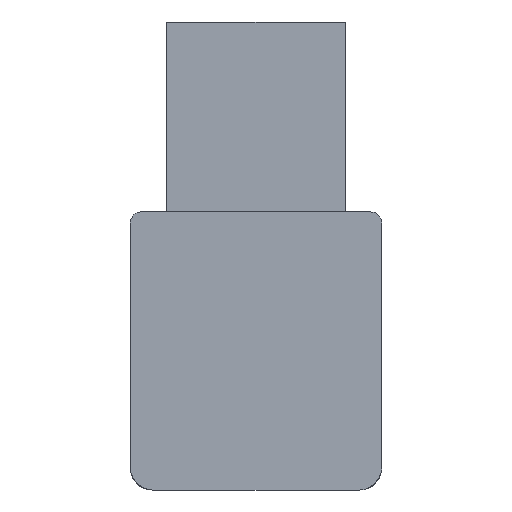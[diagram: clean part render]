
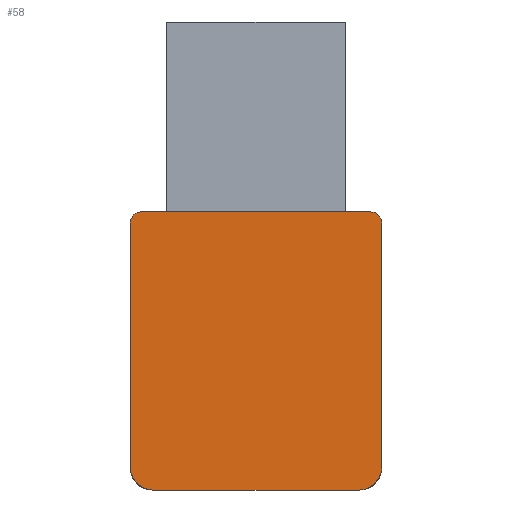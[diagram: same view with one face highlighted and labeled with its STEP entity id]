
A CAD part, front view. The second image highlights one B-rep face of the part: STEP entity #58.
In plain terms, the highlighted planar face has unit normal (0, -1, 0) as drawn and (0, 0, 1) by its records, which use the part's own axes.
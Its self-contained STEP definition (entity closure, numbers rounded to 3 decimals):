
#58=ADVANCED_FACE('',(#133),#1260,.T.);
#133=FACE_OUTER_BOUND('',#209,.T.);
#209=EDGE_LOOP('',(#450,#451,#452,#453,#454,#455,#456,#457));
#450=ORIENTED_EDGE('',*,*,#807,.T.);
#451=ORIENTED_EDGE('',*,*,#838,.T.);
#452=ORIENTED_EDGE('',*,*,#809,.T.);
#453=ORIENTED_EDGE('',*,*,#836,.T.);
#454=ORIENTED_EDGE('',*,*,#814,.T.);
#455=ORIENTED_EDGE('',*,*,#835,.T.);
#456=ORIENTED_EDGE('',*,*,#797,.T.);
#457=ORIENTED_EDGE('',*,*,#840,.T.);
#797=EDGE_CURVE('',#1218,#1217,#973,.T.);
#807=EDGE_CURVE('',#1222,#1221,#983,.T.);
#809=EDGE_CURVE('',#1223,#1224,#985,.T.);
#814=EDGE_CURVE('',#1229,#1228,#990,.T.);
#835=EDGE_CURVE('',#1228,#1218,#1058,.T.);
#836=EDGE_CURVE('',#1224,#1229,#1059,.T.);
#838=EDGE_CURVE('',#1221,#1223,#1061,.T.);
#840=EDGE_CURVE('',#1217,#1222,#1063,.T.);
#973=B_SPLINE_CURVE_WITH_KNOTS('',1,(#2724,#2725),.UNSPECIFIED.,.F.,.F.,
(2,2),(-21.9,0.),.UNSPECIFIED.);
#983=B_SPLINE_CURVE_WITH_KNOTS('',1,(#2744,#2745),.UNSPECIFIED.,.F.,.F.,
(2,2),(-20.5,0.),.UNSPECIFIED.);
#985=B_SPLINE_CURVE_WITH_KNOTS('',1,(#2748,#2749),.UNSPECIFIED.,.F.,.F.,
(2,2),(-21.9,0.),.UNSPECIFIED.);
#990=B_SPLINE_CURVE_WITH_KNOTS('',1,(#2758,#2759),.UNSPECIFIED.,.F.,.F.,
(2,2),(-18.5,0.),.UNSPECIFIED.);
#1058=(
BOUNDED_CURVE()
B_SPLINE_CURVE(2,(#2826,#2827,#2828),.UNSPECIFIED.,.F.,.F.)
B_SPLINE_CURVE_WITH_KNOTS((3,3),(-3.142,0.),.UNSPECIFIED.)
CURVE()
GEOMETRIC_REPRESENTATION_ITEM()
RATIONAL_B_SPLINE_CURVE((1.,0.707,1.))
REPRESENTATION_ITEM('')
);
#1059=(
BOUNDED_CURVE()
B_SPLINE_CURVE(2,(#2829,#2830,#2831),.UNSPECIFIED.,.F.,.F.)
B_SPLINE_CURVE_WITH_KNOTS((3,3),(-3.142,0.),.UNSPECIFIED.)
CURVE()
GEOMETRIC_REPRESENTATION_ITEM()
RATIONAL_B_SPLINE_CURVE((1.,0.707,1.))
REPRESENTATION_ITEM('')
);
#1061=(
BOUNDED_CURVE()
B_SPLINE_CURVE(2,(#2835,#2836,#2837),.UNSPECIFIED.,.F.,.F.)
B_SPLINE_CURVE_WITH_KNOTS((3,3),(-1.571,0.),.UNSPECIFIED.)
CURVE()
GEOMETRIC_REPRESENTATION_ITEM()
RATIONAL_B_SPLINE_CURVE((1.,0.707,1.))
REPRESENTATION_ITEM('')
);
#1063=(
BOUNDED_CURVE()
B_SPLINE_CURVE(2,(#2841,#2842,#2843),.UNSPECIFIED.,.F.,.F.)
B_SPLINE_CURVE_WITH_KNOTS((3,3),(-1.571,0.),.UNSPECIFIED.)
CURVE()
GEOMETRIC_REPRESENTATION_ITEM()
RATIONAL_B_SPLINE_CURVE((1.,0.707,1.))
REPRESENTATION_ITEM('')
);
#1217=VERTEX_POINT('',#2157);
#1218=VERTEX_POINT('',#2158);
#1221=VERTEX_POINT('',#2161);
#1222=VERTEX_POINT('',#2162);
#1223=VERTEX_POINT('',#2163);
#1224=VERTEX_POINT('',#2164);
#1228=VERTEX_POINT('',#2168);
#1229=VERTEX_POINT('',#2169);
#1260=PLANE('',#1397);
#1397=AXIS2_PLACEMENT_3D('',#1725,#1453,$);
#1453=DIRECTION('',(0.,0.,1.));
#1725=CARTESIAN_POINT('',(-13.5,-14.94,142.25));
#2157=CARTESIAN_POINT('',(11.25,11.45,142.25));
#2158=CARTESIAN_POINT('',(11.25,-10.45,142.25));
#2161=CARTESIAN_POINT('',(-10.25,12.45,142.25));
#2162=CARTESIAN_POINT('',(10.25,12.45,142.25));
#2163=CARTESIAN_POINT('',(-11.25,11.45,142.25));
#2164=CARTESIAN_POINT('',(-11.25,-10.45,142.25));
#2168=CARTESIAN_POINT('',(9.25,-12.45,142.25));
#2169=CARTESIAN_POINT('',(-9.25,-12.45,142.25));
#2724=CARTESIAN_POINT('',(11.25,-10.45,142.25));
#2725=CARTESIAN_POINT('',(11.25,11.45,142.25));
#2744=CARTESIAN_POINT('',(10.25,12.45,142.25));
#2745=CARTESIAN_POINT('',(-10.25,12.45,142.25));
#2748=CARTESIAN_POINT('',(-11.25,11.45,142.25));
#2749=CARTESIAN_POINT('',(-11.25,-10.45,142.25));
#2758=CARTESIAN_POINT('',(-9.25,-12.45,142.25));
#2759=CARTESIAN_POINT('',(9.25,-12.45,142.25));
#2826=CARTESIAN_POINT('',(9.25,-12.45,142.25));
#2827=CARTESIAN_POINT('',(11.25,-12.45,142.25));
#2828=CARTESIAN_POINT('',(11.25,-10.45,142.25));
#2829=CARTESIAN_POINT('',(-11.25,-10.45,142.25));
#2830=CARTESIAN_POINT('',(-11.25,-12.45,142.25));
#2831=CARTESIAN_POINT('',(-9.25,-12.45,142.25));
#2835=CARTESIAN_POINT('',(-10.25,12.45,142.25));
#2836=CARTESIAN_POINT('',(-11.25,12.45,142.25));
#2837=CARTESIAN_POINT('',(-11.25,11.45,142.25));
#2841=CARTESIAN_POINT('',(11.25,11.45,142.25));
#2842=CARTESIAN_POINT('',(11.25,12.45,142.25));
#2843=CARTESIAN_POINT('',(10.25,12.45,142.25));
